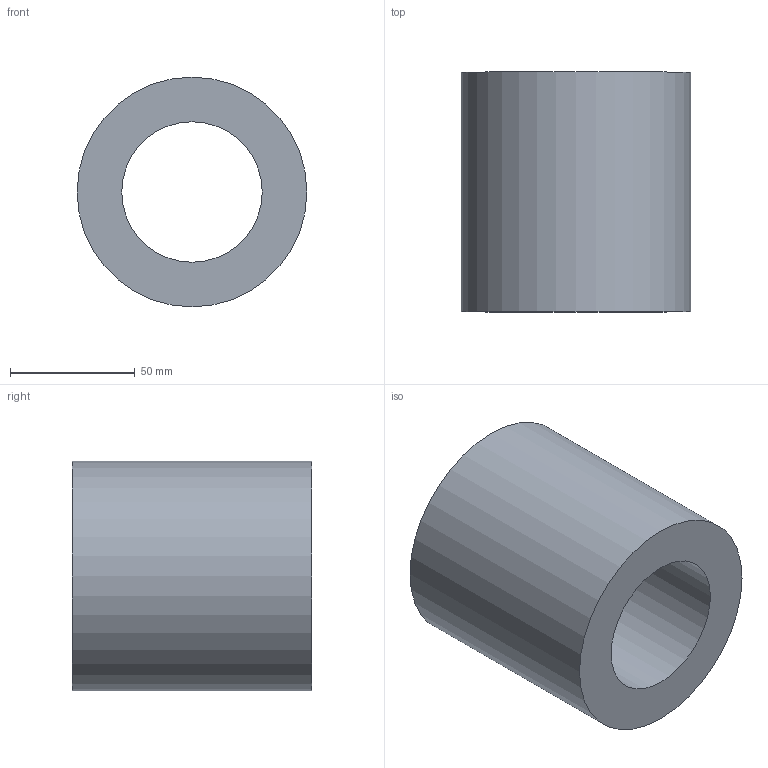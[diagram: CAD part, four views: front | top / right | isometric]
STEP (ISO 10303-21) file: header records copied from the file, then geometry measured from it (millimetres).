
FILE_DESCRIPTION(('Open CASCADE Model'),'2;1');
FILE_NAME('Open CASCADE Shape Model','2026-10-17T16:45:03',('Author'),( 'Open CASCADE'),'Open CASCADE STEP processor 8.0','build123d', 'Unknown');
FILE_SCHEMA(('AUTOMOTIVE_DESIGN { 1 0 10303 214 1 1 1 1 }'));
Length unit declared in the file: millimetre
Products named in the file (1): COMPOUND
Bounding box: 92 x 96 x 92 mm (x, y, z)
Volume: 400029.8 mm3; surface area: 53030 mm2
Topology: 1 solids, 1 shells, 4 faces, 6 edges, 4 vertices
Faces by surface type: cylinder 2, plane 2
Full cylindrical faces by diameter (mm): 56.2 x1, 92 x1
Entity records: 186 total; most frequent: DIRECTION 32, CARTESIAN_POINT 27, ORIENTED_EDGE 12, PCURVE 12, DEFINITIONAL_REPRESENTATION 12, LINE 10, VECTOR 10, AXIS2_PLACEMENT_3D 9
